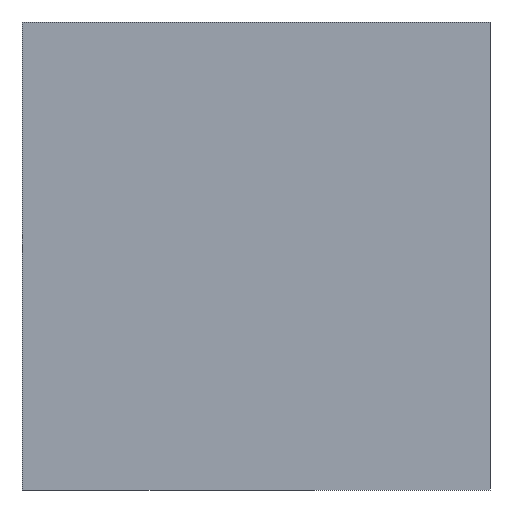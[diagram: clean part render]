
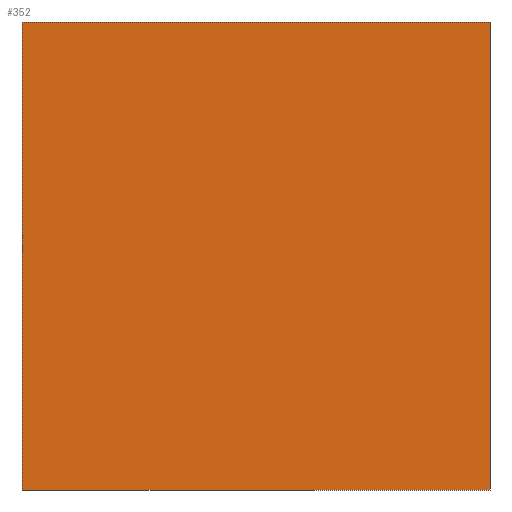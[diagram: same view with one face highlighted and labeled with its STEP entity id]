
A CAD part, left-side view. The second image highlights one B-rep face of the part: STEP entity #352.
In plain terms, the highlighted planar face has unit normal (-1, 0, 0).
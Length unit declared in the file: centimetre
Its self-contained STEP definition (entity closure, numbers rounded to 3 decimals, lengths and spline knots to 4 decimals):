
#75 = EDGE_CURVE ( 'NONE', #640, #100, #526, .T. ) ;
#90 = EDGE_CURVE ( 'NONE', #164, #272, #321, .T. ) ;
#96 = VECTOR ( 'NONE', #549, 100. ) ;
#100 = VERTEX_POINT ( 'NONE', #593 ) ;
#158 = DIRECTION ( 'NONE',  ( 0., 0., -1. ) ) ;
#164 = VERTEX_POINT ( 'NONE', #596 ) ;
#167 = EDGE_CURVE ( 'NONE', #272, #100, #600, .T. ) ;
#191 = ORIENTED_EDGE ( 'NONE', *, *, #90, .F. ) ;
#240 = CARTESIAN_POINT ( 'NONE',  ( 0., 1000., 0. ) ) ;
#243 = VECTOR ( 'NONE', #781, 100. ) ;
#246 = ORIENTED_EDGE ( 'NONE', *, *, #167, .F. ) ;
#247 = CARTESIAN_POINT ( 'NONE',  ( 0., 1000., 1000. ) ) ;
#272 = VERTEX_POINT ( 'NONE', #614 ) ;
#283 = FACE_OUTER_BOUND ( 'NONE', #369, .T. ) ;
#303 = CARTESIAN_POINT ( 'NONE',  ( 0., 1000., 0. ) ) ;
#321 = LINE ( 'NONE', #247, #605 ) ;
#352 = ADVANCED_FACE ( 'NONE', ( #283 ), #699, .F. ) ;
#369 = EDGE_LOOP ( 'NONE', ( #827, #246, #191, #855 ) ) ;
#374 = VECTOR ( 'NONE', #581, 100. ) ;
#388 = AXIS2_PLACEMENT_3D ( 'NONE', #853, #841, #158 ) ;
#441 = CARTESIAN_POINT ( 'NONE',  ( 0., 1000., 1000. ) ) ;
#496 = LINE ( 'NONE', #441, #243 ) ;
#526 = LINE ( 'NONE', #240, #374 ) ;
#549 = DIRECTION ( 'NONE',  ( 0., 0., -1. ) ) ;
#581 = DIRECTION ( 'NONE',  ( 0., -1., 0. ) ) ;
#593 = CARTESIAN_POINT ( 'NONE',  ( 0., 0., 0. ) ) ;
#596 = CARTESIAN_POINT ( 'NONE',  ( 0., 1000., 1000. ) ) ;
#600 = LINE ( 'NONE', #882, #96 ) ;
#605 = VECTOR ( 'NONE', #808, 100. ) ;
#614 = CARTESIAN_POINT ( 'NONE',  ( 0., 0., 1000. ) ) ;
#640 = VERTEX_POINT ( 'NONE', #303 ) ;
#699 = PLANE ( 'NONE',  #388 ) ;
#781 = DIRECTION ( 'NONE',  ( 0., 0., -1. ) ) ;
#808 = DIRECTION ( 'NONE',  ( 0., -1., 0. ) ) ;
#827 = ORIENTED_EDGE ( 'NONE', *, *, #75, .T. ) ;
#841 = DIRECTION ( 'NONE',  ( 1., 0., 0. ) ) ;
#853 = CARTESIAN_POINT ( 'NONE',  ( 0., 1000., 1000. ) ) ;
#855 = ORIENTED_EDGE ( 'NONE', *, *, #892, .T. ) ;
#882 = CARTESIAN_POINT ( 'NONE',  ( 0., 0., 1000. ) ) ;
#892 = EDGE_CURVE ( 'NONE', #164, #640, #496, .T. ) ;
